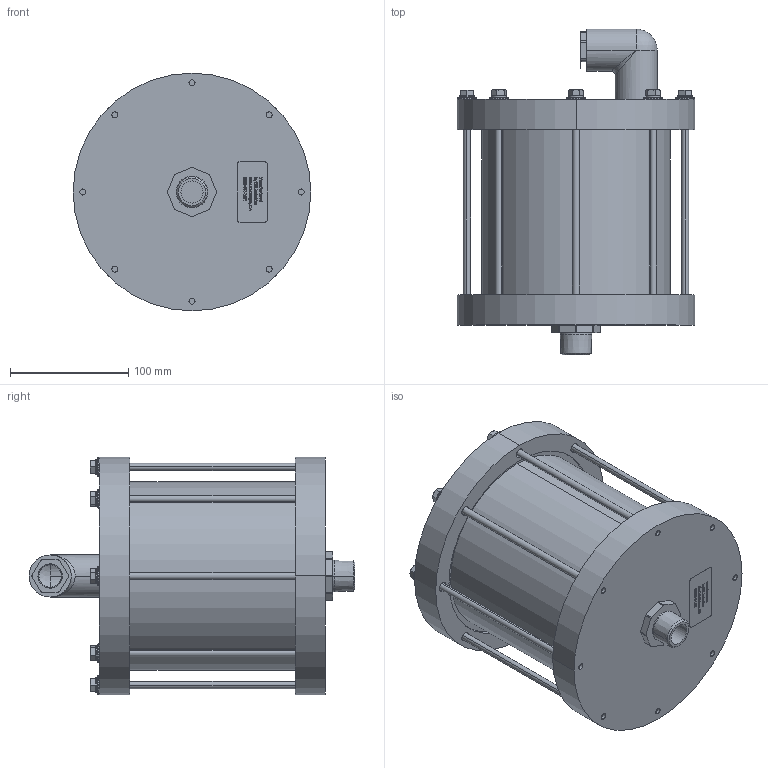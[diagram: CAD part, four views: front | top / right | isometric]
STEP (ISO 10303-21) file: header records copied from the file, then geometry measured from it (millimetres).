
FILE_DESCRIPTION (( 'STEP AP214' ), '1' );
FILE_NAME ('DV-0200.STEP', '2018-07-25T15:37:56', ( '' ), ( '' ), 'SwSTEP 2.0', 'SolidWorks 2017', '' );
FILE_SCHEMA (( 'AUTOMOTIVE_DESIGN' ));
Length unit declared in the file: inch
Products named in the file (1): DV-0200
Bounding box: 200.66 x 275.08 x 200.66 mm (x, y, z)
Surface area: 262378 mm2 (no closed solid volume)
Topology: 0 solids, 97 shells, 357 faces, 1944 edges, 1673 vertices
Faces by surface type: plane 155, cylinder 118, torus 52, cone 24, bspline 7, sphere 1
Entity records: 31902 total; most frequent: CARTESIAN_POINT 13520, ORIENTED_EDGE 2441, DIRECTION 2344, EDGE_CURVE 1940, VERTEX_POINT 1672, LINE 850, VECTOR 850, AXIS2_PLACEMENT_3D 747
